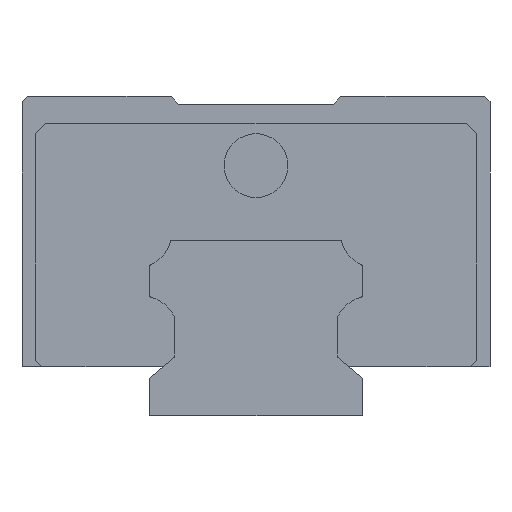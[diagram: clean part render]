
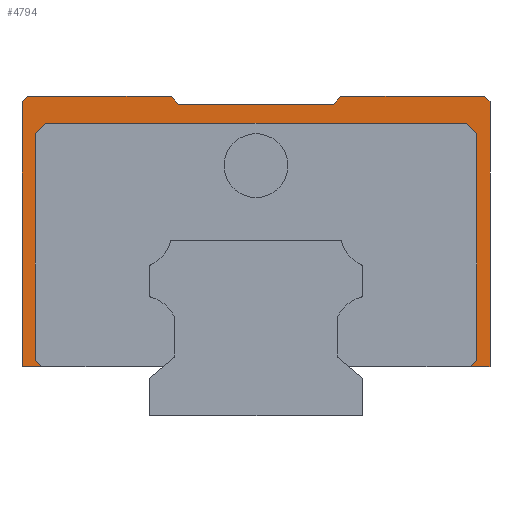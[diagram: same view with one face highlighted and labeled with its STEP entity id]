
A CAD part, left-side view. The second image highlights one B-rep face of the part: STEP entity #4794.
In plain terms, the highlighted planar face has unit normal (-1, 0, 0).
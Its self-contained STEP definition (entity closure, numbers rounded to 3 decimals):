
#12 = VECTOR ( 'NONE', #757, 1000. ) ;
#165 = CARTESIAN_POINT ( 'NONE',  ( -27., -22., 4.6 ) ) ;
#183 = ORIENTED_EDGE ( 'NONE', *, *, #1635, .F. ) ;
#193 = CARTESIAN_POINT ( 'NONE',  ( -27., -20.75, 30. ) ) ;
#212 = VERTEX_POINT ( 'NONE', #422 ) ;
#235 = LINE ( 'NONE', #2525, #1739 ) ;
#285 = ORIENTED_EDGE ( 'NONE', *, *, #1790, .T. ) ;
#362 = LINE ( 'NONE', #4206, #4770 ) ;
#393 = VERTEX_POINT ( 'NONE', #5686 ) ;
#422 = CARTESIAN_POINT ( 'NONE',  ( -27., 20.15, 4.6 ) ) ;
#451 = CARTESIAN_POINT ( 'NONE',  ( -27., 7.963, 30. ) ) ;
#486 = CARTESIAN_POINT ( 'NONE',  ( -27., 7.333, 29.25 ) ) ;
#518 = VERTEX_POINT ( 'NONE', #1620 ) ;
#534 = DIRECTION ( 'NONE',  ( 0., 0.707, 0.707 ) ) ;
#619 = CARTESIAN_POINT ( 'NONE',  ( -27., -21.5, 30. ) ) ;
#692 = DIRECTION ( 'NONE',  ( 0., -0.707, 0.707 ) ) ;
#757 = DIRECTION ( 'NONE',  ( 0., 0.643, -0.766 ) ) ;
#838 = CARTESIAN_POINT ( 'NONE',  ( -27., -7.333, 29.25 ) ) ;
#843 = LINE ( 'NONE', #2743, #1132 ) ;
#898 = ORIENTED_EDGE ( 'NONE', *, *, #2711, .T. ) ;
#920 = DIRECTION ( 'NONE',  ( 0., 1., 0. ) ) ;
#984 = ORIENTED_EDGE ( 'NONE', *, *, #2398, .T. ) ;
#1011 = FACE_OUTER_BOUND ( 'NONE', #5955, .T. ) ;
#1028 = CARTESIAN_POINT ( 'NONE',  ( -27., -22., 29.5 ) ) ;
#1044 = CARTESIAN_POINT ( 'NONE',  ( -27., 20.75, 26.5 ) ) ;
#1060 = DIRECTION ( 'NONE',  ( 0., 0., 1. ) ) ;
#1132 = VECTOR ( 'NONE', #4632, 1000. ) ;
#1134 = LINE ( 'NONE', #4936, #2498 ) ;
#1161 = VECTOR ( 'NONE', #692, 1000. ) ;
#1174 = ORIENTED_EDGE ( 'NONE', *, *, #1474, .F. ) ;
#1197 = VERTEX_POINT ( 'NONE', #2866 ) ;
#1251 = VERTEX_POINT ( 'NONE', #5730 ) ;
#1291 = VECTOR ( 'NONE', #534, 1000. ) ;
#1341 = EDGE_CURVE ( 'NONE', #6056, #212, #4336, .T. ) ;
#1353 = EDGE_CURVE ( 'NONE', #3533, #3625, #2295, .T. ) ;
#1440 = EDGE_CURVE ( 'NONE', #4869, #3625, #362, .T. ) ;
#1474 = EDGE_CURVE ( 'NONE', #3110, #393, #3425, .T. ) ;
#1492 = CARTESIAN_POINT ( 'NONE',  ( -27., -20.75, 5.2 ) ) ;
#1494 = EDGE_CURVE ( 'NONE', #1251, #4210, #5661, .T. ) ;
#1508 = ORIENTED_EDGE ( 'NONE', *, *, #5333, .F. ) ;
#1585 = LINE ( 'NONE', #3055, #2442 ) ;
#1599 = VECTOR ( 'NONE', #4320, 1000. ) ;
#1620 = CARTESIAN_POINT ( 'NONE',  ( -27., -20.75, 26.5 ) ) ;
#1635 = EDGE_CURVE ( 'NONE', #4393, #6056, #1134, .T. ) ;
#1680 = VERTEX_POINT ( 'NONE', #165 ) ;
#1688 = ORIENTED_EDGE ( 'NONE', *, *, #3357, .F. ) ;
#1691 = CARTESIAN_POINT ( 'NONE',  ( -27., 11.775, -3.775 ) ) ;
#1726 = VECTOR ( 'NONE', #2276, 1000. ) ;
#1739 = VECTOR ( 'NONE', #2659, 1000. ) ;
#1770 = LINE ( 'NONE', #2771, #3445 ) ;
#1790 = EDGE_CURVE ( 'NONE', #1251, #1197, #4608, .T. ) ;
#1817 = VERTEX_POINT ( 'NONE', #2222 ) ;
#1844 = AXIS2_PLACEMENT_3D ( 'NONE', #5211, #4321, #4846 ) ;
#1906 = VECTOR ( 'NONE', #3595, 1000. ) ;
#1990 = EDGE_CURVE ( 'NONE', #4942, #4210, #4780, .T. ) ;
#2021 = DIRECTION ( 'NONE',  ( 0., 0., -1. ) ) ;
#2039 = ORIENTED_EDGE ( 'NONE', *, *, #2273, .F. ) ;
#2101 = VECTOR ( 'NONE', #5604, 1000. ) ;
#2117 = LINE ( 'NONE', #5896, #5112 ) ;
#2179 = ORIENTED_EDGE ( 'NONE', *, *, #1353, .F. ) ;
#2194 = CARTESIAN_POINT ( 'NONE',  ( -27., -7.963, 30. ) ) ;
#2222 = CARTESIAN_POINT ( 'NONE',  ( -27., -20.15, 4.6 ) ) ;
#2273 = EDGE_CURVE ( 'NONE', #518, #3110, #843, .T. ) ;
#2276 = DIRECTION ( 'NONE',  ( 0., 1., 0. ) ) ;
#2295 = LINE ( 'NONE', #2667, #2101 ) ;
#2372 = ORIENTED_EDGE ( 'NONE', *, *, #1440, .T. ) ;
#2398 = EDGE_CURVE ( 'NONE', #3533, #5583, #4254, .T. ) ;
#2399 = DIRECTION ( 'NONE',  ( 0., 0.707, -0.707 ) ) ;
#2442 = VECTOR ( 'NONE', #2021, 1000. ) ;
#2498 = VECTOR ( 'NONE', #4844, 1000. ) ;
#2511 = VECTOR ( 'NONE', #2399, 1000. ) ;
#2515 = LINE ( 'NONE', #193, #4550 ) ;
#2525 = CARTESIAN_POINT ( 'NONE',  ( -27., 9., 4.6 ) ) ;
#2543 = CARTESIAN_POINT ( 'NONE',  ( -27., 22., 4.6 ) ) ;
#2659 = DIRECTION ( 'NONE',  ( 0., 1., 0. ) ) ;
#2667 = CARTESIAN_POINT ( 'NONE',  ( -27., 22., 30. ) ) ;
#2711 = EDGE_CURVE ( 'NONE', #1197, #4869, #3204, .T. ) ;
#2743 = CARTESIAN_POINT ( 'NONE',  ( -27., -19.625, 27.625 ) ) ;
#2771 = CARTESIAN_POINT ( 'NONE',  ( -27., 22., 4.6 ) ) ;
#2819 = LINE ( 'NONE', #4701, #5800 ) ;
#2866 = CARTESIAN_POINT ( 'NONE',  ( -27., -7.333, 29.25 ) ) ;
#3008 = ORIENTED_EDGE ( 'NONE', *, *, #5001, .F. ) ;
#3055 = CARTESIAN_POINT ( 'NONE',  ( -27., -22., 28. ) ) ;
#3110 = VERTEX_POINT ( 'NONE', #3598 ) ;
#3160 = ORIENTED_EDGE ( 'NONE', *, *, #4078, .F. ) ;
#3193 = DIRECTION ( 'NONE',  ( 0., 0.707, -0.707 ) ) ;
#3204 = LINE ( 'NONE', #838, #1726 ) ;
#3281 = VERTEX_POINT ( 'NONE', #1492 ) ;
#3357 = EDGE_CURVE ( 'NONE', #4942, #1680, #1585, .T. ) ;
#3425 = LINE ( 'NONE', #4294, #4279 ) ;
#3445 = VECTOR ( 'NONE', #4068, 1000. ) ;
#3463 = CARTESIAN_POINT ( 'NONE',  ( -27., 20.75, 5.2 ) ) ;
#3533 = VERTEX_POINT ( 'NONE', #4103 ) ;
#3595 = DIRECTION ( 'NONE',  ( 0., -0.707, -0.707 ) ) ;
#3598 = CARTESIAN_POINT ( 'NONE',  ( -27., -19.75, 27.5 ) ) ;
#3625 = VERTEX_POINT ( 'NONE', #451 ) ;
#3827 = CARTESIAN_POINT ( 'NONE',  ( -27., 22., 29.5 ) ) ;
#3952 = CARTESIAN_POINT ( 'NONE',  ( -27., -33.775, 18.225 ) ) ;
#4053 = CARTESIAN_POINT ( 'NONE',  ( -27., -22., 29.5 ) ) ;
#4068 = DIRECTION ( 'NONE',  ( 0., 0., 1. ) ) ;
#4078 = EDGE_CURVE ( 'NONE', #3281, #518, #2515, .T. ) ;
#4103 = CARTESIAN_POINT ( 'NONE',  ( -27., 21.5, 30. ) ) ;
#4146 = DIRECTION ( 'NONE',  ( 0., 0.643, 0.766 ) ) ;
#4206 = CARTESIAN_POINT ( 'NONE',  ( -27., 7.333, 29.25 ) ) ;
#4210 = VERTEX_POINT ( 'NONE', #619 ) ;
#4254 = LINE ( 'NONE', #4744, #2511 ) ;
#4279 = VECTOR ( 'NONE', #920, 1000. ) ;
#4294 = CARTESIAN_POINT ( 'NONE',  ( -27., -22., 27.5 ) ) ;
#4320 = DIRECTION ( 'NONE',  ( 0., -1., 0. ) ) ;
#4321 = DIRECTION ( 'NONE',  ( 1., 0., 0. ) ) ;
#4336 = LINE ( 'NONE', #1691, #1906 ) ;
#4393 = VERTEX_POINT ( 'NONE', #1044 ) ;
#4550 = VECTOR ( 'NONE', #1060, 1000. ) ;
#4590 = ORIENTED_EDGE ( 'NONE', *, *, #1494, .F. ) ;
#4608 = LINE ( 'NONE', #2194, #12 ) ;
#4632 = DIRECTION ( 'NONE',  ( 0., 0.707, 0.707 ) ) ;
#4701 = CARTESIAN_POINT ( 'NONE',  ( -27., -2.375, 49.625 ) ) ;
#4744 = CARTESIAN_POINT ( 'NONE',  ( -27., 21.5, 30. ) ) ;
#4756 = EDGE_CURVE ( 'NONE', #393, #4393, #2819, .T. ) ;
#4770 = VECTOR ( 'NONE', #4146, 1000. ) ;
#4780 = LINE ( 'NONE', #1028, #1291 ) ;
#4785 = CARTESIAN_POINT ( 'NONE',  ( -27., 22., 30. ) ) ;
#4794 = ADVANCED_FACE ( 'NONE', ( #1011 ), #5689, .F. ) ;
#4844 = DIRECTION ( 'NONE',  ( 0., 0., -1. ) ) ;
#4846 = DIRECTION ( 'NONE',  ( 0., 1., 0. ) ) ;
#4869 = VERTEX_POINT ( 'NONE', #486 ) ;
#4936 = CARTESIAN_POINT ( 'NONE',  ( -27., 20.75, 30. ) ) ;
#4942 = VERTEX_POINT ( 'NONE', #4053 ) ;
#5001 = EDGE_CURVE ( 'NONE', #212, #5813, #235, .T. ) ;
#5094 = ORIENTED_EDGE ( 'NONE', *, *, #5377, .F. ) ;
#5112 = VECTOR ( 'NONE', #5331, 1000. ) ;
#5211 = CARTESIAN_POINT ( 'NONE',  ( -27., -22., 30. ) ) ;
#5331 = DIRECTION ( 'NONE',  ( 0., 1., 0. ) ) ;
#5333 = EDGE_CURVE ( 'NONE', #1817, #3281, #5866, .T. ) ;
#5377 = EDGE_CURVE ( 'NONE', #1680, #1817, #2117, .T. ) ;
#5488 = ORIENTED_EDGE ( 'NONE', *, *, #4756, .F. ) ;
#5583 = VERTEX_POINT ( 'NONE', #3827 ) ;
#5604 = DIRECTION ( 'NONE',  ( 0., -1., 0. ) ) ;
#5637 = ORIENTED_EDGE ( 'NONE', *, *, #5854, .F. ) ;
#5661 = LINE ( 'NONE', #4785, #1599 ) ;
#5664 = ORIENTED_EDGE ( 'NONE', *, *, #1990, .T. ) ;
#5686 = CARTESIAN_POINT ( 'NONE',  ( -27., 19.75, 27.5 ) ) ;
#5689 = PLANE ( 'NONE',  #1844 ) ;
#5730 = CARTESIAN_POINT ( 'NONE',  ( -27., -7.963, 30. ) ) ;
#5800 = VECTOR ( 'NONE', #3193, 1000. ) ;
#5813 = VERTEX_POINT ( 'NONE', #2543 ) ;
#5818 = ORIENTED_EDGE ( 'NONE', *, *, #1341, .F. ) ;
#5854 = EDGE_CURVE ( 'NONE', #5813, #5583, #1770, .T. ) ;
#5866 = LINE ( 'NONE', #3952, #1161 ) ;
#5896 = CARTESIAN_POINT ( 'NONE',  ( -27., -22., 4.6 ) ) ;
#5955 = EDGE_LOOP ( 'NONE', ( #5818, #183, #5488, #1174, #2039, #3160, #1508, #5094, #1688, #5664, #4590, #285, #898, #2372, #2179, #984, #5637, #3008 ) ) ;
#6056 = VERTEX_POINT ( 'NONE', #3463 ) ;
